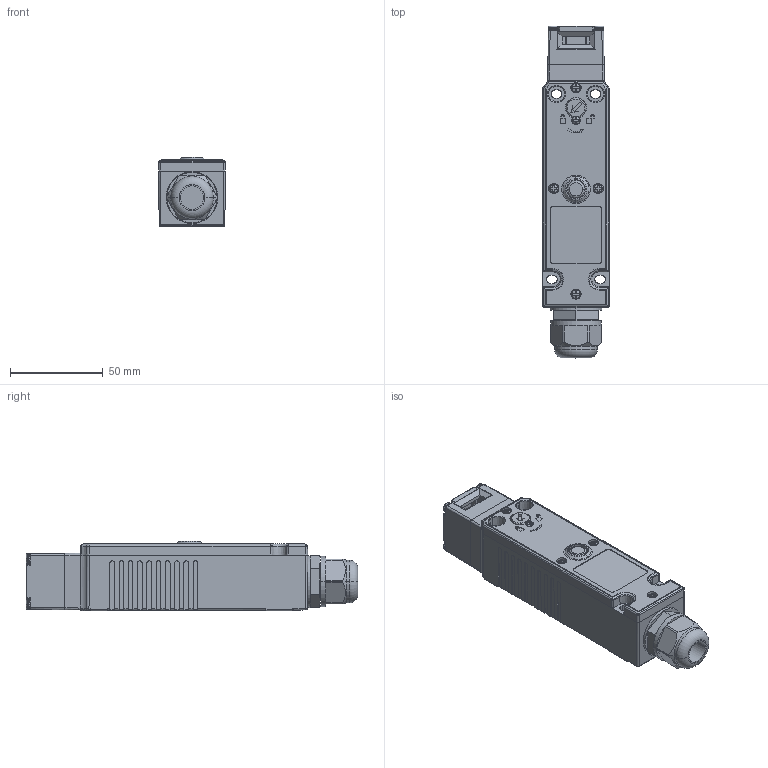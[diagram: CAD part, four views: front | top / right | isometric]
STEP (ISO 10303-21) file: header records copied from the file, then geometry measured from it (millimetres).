
FILE_DESCRIPTION((''),'2;1');
FILE_NAME('EMNR_ASM','2022-05-16T',('±ò'),(''),'CREO PARAMETRIC BY PTC INC, 2014190','CREO PARAMETRIC BY PTC INC, 2014190','');
FILE_SCHEMA(('CONFIG_CONTROL_DESIGN'));
Products named in the file (10): KETI_80_1; QIANZUO-NEW_1_1_1; SHANGGAI_43_1; M20_1_1; LUOSI-3_1_1_1; LS3-8_1_1; LED-GAI_7_1; JIESUOXUANNIU_20_1; LS25-4_2_1; EMNR_ASM
Assembly tree (15 placements, depth 2):
  EMNR_ASM
    KETI_80_1
    QIANZUO-NEW_1_1_1
    SHANGGAI_43_1
    M20_1_1
    LUOSI-3_1_1_1  x4
    LS3-8_1_1  x4
    LED-GAI_7_1
    JIESUOXUANNIU_20_1
    LS25-4_2_1
Bounding box: 35.98 x 179.13 x 37.59 mm (x, y, z)
Volume: 167894.5 mm3; surface area: 56486.4 mm2
Topology: 15 solids, 21 shells, 2287 faces, 6324 edges, 4145 vertices
Faces by surface type: plane 1417, cylinder 567, cone 117, bspline 92, torus 64, sphere 28, extrusion 2
Entity records: 71194 total; most frequent: CARTESIAN_POINT 20725, ORIENTED_EDGE 10928, DIRECTION 9801, EDGE_CURVE 5464, VECTOR 3883, LINE 3881, VERTEX_POINT 3593, AXIS2_PLACEMENT_3D 2959
